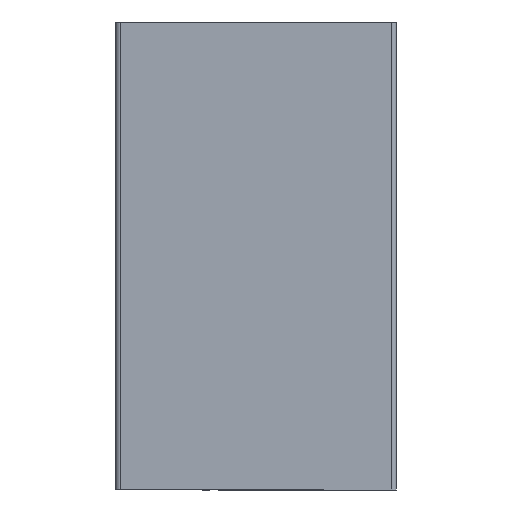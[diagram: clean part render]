
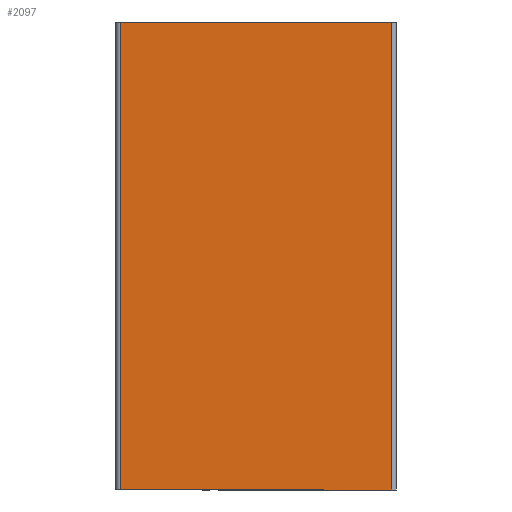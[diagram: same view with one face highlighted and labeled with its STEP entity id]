
A CAD part, left-side view. The second image highlights one B-rep face of the part: STEP entity #2097.
In plain terms, the highlighted planar face has unit normal (-1, 0, 0).
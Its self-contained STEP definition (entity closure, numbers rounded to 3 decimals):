
#305 = VECTOR ( 'NONE', #2022, 1000. ) ;
#381 = CARTESIAN_POINT ( 'NONE',  ( -8., -29., 50. ) ) ;
#390 = AXIS2_PLACEMENT_3D ( 'NONE', #2809, #4062, #573 ) ;
#436 = EDGE_LOOP ( 'NONE', ( #868, #3693, #1787, #500 ) ) ;
#481 = EDGE_CURVE ( 'NONE', #3949, #1592, #2327, .T. ) ;
#500 = ORIENTED_EDGE ( 'NONE', *, *, #481, .T. ) ;
#519 = CARTESIAN_POINT ( 'NONE',  ( -8., -29., 50. ) ) ;
#573 = DIRECTION ( 'NONE',  ( 0., 0., -1. ) ) ;
#688 = LINE ( 'NONE', #710, #2317 ) ;
#710 = CARTESIAN_POINT ( 'NONE',  ( -8., 29., -50. ) ) ;
#826 = LINE ( 'NONE', #519, #2906 ) ;
#858 = LINE ( 'NONE', #2456, #1187 ) ;
#868 = ORIENTED_EDGE ( 'NONE', *, *, #3956, .T. ) ;
#927 = PLANE ( 'NONE',  #390 ) ;
#1142 = CARTESIAN_POINT ( 'NONE',  ( -8., 29., -50. ) ) ;
#1187 = VECTOR ( 'NONE', #3322, 1000. ) ;
#1221 = VERTEX_POINT ( 'NONE', #2805 ) ;
#1592 = VERTEX_POINT ( 'NONE', #1142 ) ;
#1787 = ORIENTED_EDGE ( 'NONE', *, *, #2949, .F. ) ;
#1949 = EDGE_CURVE ( 'NONE', #3910, #1221, #826, .T. ) ;
#2022 = DIRECTION ( 'NONE',  ( 0., 0., -1. ) ) ;
#2097 = ADVANCED_FACE ( 'NONE', ( #3780 ), #927, .F. ) ;
#2285 = CARTESIAN_POINT ( 'NONE',  ( -8., 29., 50. ) ) ;
#2317 = VECTOR ( 'NONE', #2864, 1000. ) ;
#2327 = LINE ( 'NONE', #2987, #305 ) ;
#2456 = CARTESIAN_POINT ( 'NONE',  ( -8., 29., 50. ) ) ;
#2805 = CARTESIAN_POINT ( 'NONE',  ( -8., -29., -50. ) ) ;
#2809 = CARTESIAN_POINT ( 'NONE',  ( -8., 29., 50. ) ) ;
#2864 = DIRECTION ( 'NONE',  ( 0., -1., 0. ) ) ;
#2906 = VECTOR ( 'NONE', #3008, 1000. ) ;
#2949 = EDGE_CURVE ( 'NONE', #3949, #3910, #858, .T. ) ;
#2987 = CARTESIAN_POINT ( 'NONE',  ( -8., 29., 50. ) ) ;
#3008 = DIRECTION ( 'NONE',  ( 0., 0., -1. ) ) ;
#3322 = DIRECTION ( 'NONE',  ( 0., -1., 0. ) ) ;
#3693 = ORIENTED_EDGE ( 'NONE', *, *, #1949, .F. ) ;
#3780 = FACE_OUTER_BOUND ( 'NONE', #436, .T. ) ;
#3910 = VERTEX_POINT ( 'NONE', #381 ) ;
#3949 = VERTEX_POINT ( 'NONE', #2285 ) ;
#3956 = EDGE_CURVE ( 'NONE', #1592, #1221, #688, .T. ) ;
#4062 = DIRECTION ( 'NONE',  ( 1., 0., 0. ) ) ;
